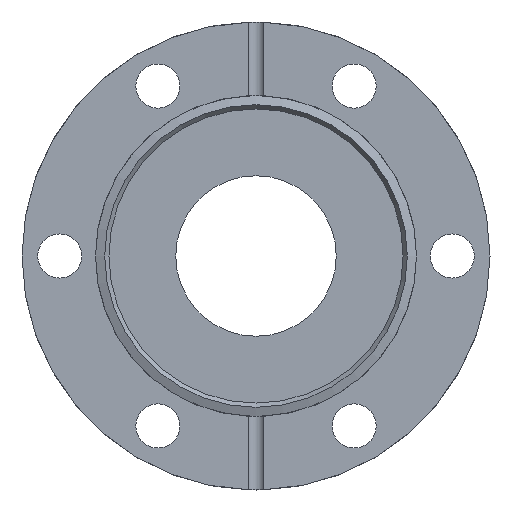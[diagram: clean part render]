
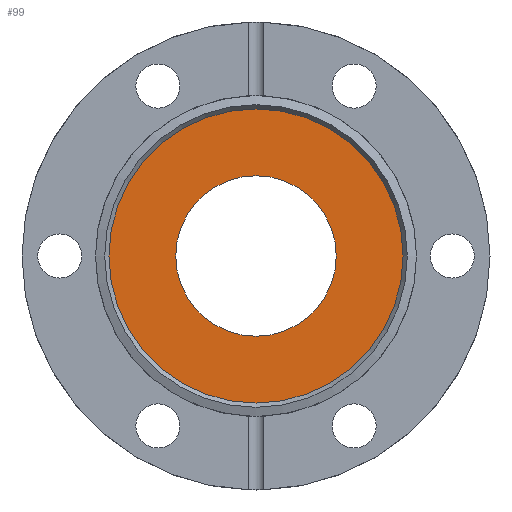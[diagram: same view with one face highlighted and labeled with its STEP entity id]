
A CAD part, left-side view. The second image highlights one B-rep face of the part: STEP entity #99.
In plain terms, the highlighted planar face has unit normal (-1, 0, 0).
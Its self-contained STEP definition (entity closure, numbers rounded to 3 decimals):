
#99 = ADVANCED_FACE( '', ( #197, #198 ), #199, .F. );
#197 = FACE_BOUND( '', #327, .T. );
#198 = FACE_OUTER_BOUND( '', #328, .T. );
#199 = PLANE( '', #329 );
#327 = EDGE_LOOP( '', ( #454 ) );
#328 = EDGE_LOOP( '', ( #455 ) );
#329 = AXIS2_PLACEMENT_3D( '', #456, #457, #458 );
#454 = ORIENTED_EDGE( '', *, *, #635, .F. );
#455 = ORIENTED_EDGE( '', *, *, #636, .T. );
#456 = CARTESIAN_POINT( '', ( -11.4, 0., 22. ) );
#457 = DIRECTION( '', ( 1., 0., 0. ) );
#458 = DIRECTION( '', ( 0., 0., -1. ) );
#635 = EDGE_CURVE( '', #713, #713, #714, .T. );
#636 = EDGE_CURVE( '', #715, #715, #716, .T. );
#713 = VERTEX_POINT( '', #820 );
#714 = CIRCLE( '', #821, 12. );
#715 = VERTEX_POINT( '', #822 );
#716 = CIRCLE( '', #823, 22. );
#820 = CARTESIAN_POINT( '', ( -11.4, 0., 12. ) );
#821 = AXIS2_PLACEMENT_3D( '', #981, #982, #983 );
#822 = CARTESIAN_POINT( '', ( -11.4, 0., 22. ) );
#823 = AXIS2_PLACEMENT_3D( '', #984, #985, #986 );
#981 = CARTESIAN_POINT( '', ( -11.4, 0., 0. ) );
#982 = DIRECTION( '', ( -1., 0., 0. ) );
#983 = DIRECTION( '', ( 0., 0., 1. ) );
#984 = CARTESIAN_POINT( '', ( -11.4, 0., 0. ) );
#985 = DIRECTION( '', ( -1., 0., 0. ) );
#986 = DIRECTION( '', ( 0., 0., 1. ) );
